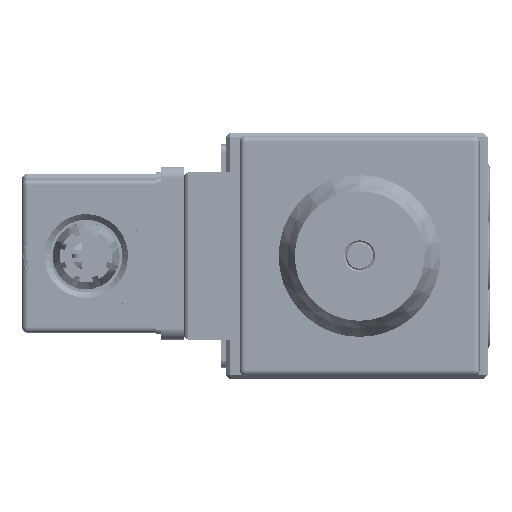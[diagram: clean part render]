
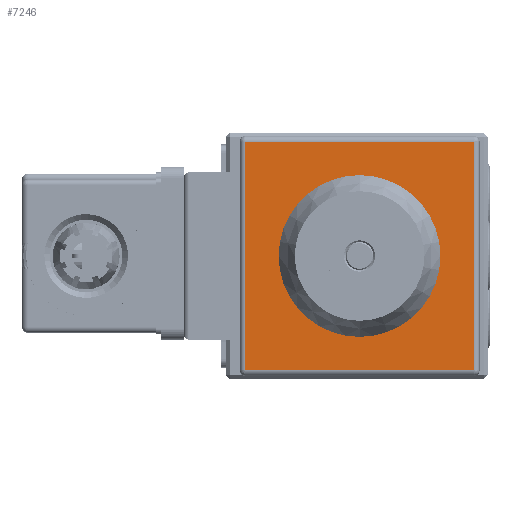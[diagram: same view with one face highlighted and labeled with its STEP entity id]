
A CAD part, left-side view. The second image highlights one B-rep face of the part: STEP entity #7246.
In plain terms, the highlighted planar face has unit normal (-1, 0, 0).
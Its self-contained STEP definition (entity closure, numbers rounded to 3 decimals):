
#3047=PLANE('',#76046);
#6206=FACE_BOUND('',#15224,.T.);
#6207=FACE_BOUND('',#15225,.T.);
#7246=ADVANCED_FACE('',(#6206,#6207),#3047,.T.);
#15224=EDGE_LOOP('',(#38255,#38256,#38257,#38258));
#15225=EDGE_LOOP('',(#38259));
#20597=LINE('',#108268,#29043);
#20598=LINE('',#108271,#29044);
#20599=LINE('',#108273,#29045);
#20600=LINE('',#108275,#29046);
#29043=VECTOR('',#81329,1.);
#29044=VECTOR('',#81330,1.);
#29045=VECTOR('',#81331,1.);
#29046=VECTOR('',#81332,1.);
#38255=ORIENTED_EDGE('',*,*,#65080,.T.);
#38256=ORIENTED_EDGE('',*,*,#65081,.T.);
#38257=ORIENTED_EDGE('',*,*,#65082,.T.);
#38258=ORIENTED_EDGE('',*,*,#65083,.T.);
#38259=ORIENTED_EDGE('',*,*,#65078,.F.);
#58078=VERTEX_POINT('',#108264);
#58080=VERTEX_POINT('',#108269);
#58081=VERTEX_POINT('',#108270);
#58082=VERTEX_POINT('',#108272);
#58083=VERTEX_POINT('',#108274);
#65078=EDGE_CURVE('',#58078,#58078,#74950,.T.);
#65080=EDGE_CURVE('',#58080,#58081,#20597,.T.);
#65081=EDGE_CURVE('',#58081,#58082,#20598,.T.);
#65082=EDGE_CURVE('',#58082,#58083,#20599,.T.);
#65083=EDGE_CURVE('',#58083,#58080,#20600,.T.);
#74950=CIRCLE('',#76043,11.);
#76043=AXIS2_PLACEMENT_3D('',#108263,#81323,#81324);
#76046=AXIS2_PLACEMENT_3D('',#108276,#81333,#81334);
#81323=DIRECTION('',(-1.,0.,0.));
#81324=DIRECTION('',(0.,1.,0.));
#81329=DIRECTION('',(0.,-1.,0.));
#81330=DIRECTION('',(0.,0.,1.));
#81331=DIRECTION('',(0.,1.,0.));
#81332=DIRECTION('',(0.,0.,-1.));
#81333=DIRECTION('',(-1.,0.,0.));
#81334=DIRECTION('',(0.,-1.,0.));
#108263=CARTESIAN_POINT('',(60.226,171.761,0.));
#108264=CARTESIAN_POINT('',(60.226,182.761,0.));
#108268=CARTESIAN_POINT('',(60.226,171.761,-20.5));
#108269=CARTESIAN_POINT('',(60.226,192.261,-20.5));
#108270=CARTESIAN_POINT('',(60.226,151.261,-20.5));
#108271=CARTESIAN_POINT('',(60.226,151.261,0.));
#108272=CARTESIAN_POINT('',(60.226,151.261,20.5));
#108273=CARTESIAN_POINT('',(60.226,171.761,20.5));
#108274=CARTESIAN_POINT('',(60.226,192.261,20.5));
#108275=CARTESIAN_POINT('',(60.226,192.261,0.));
#108276=CARTESIAN_POINT('',(60.226,171.761,0.));
